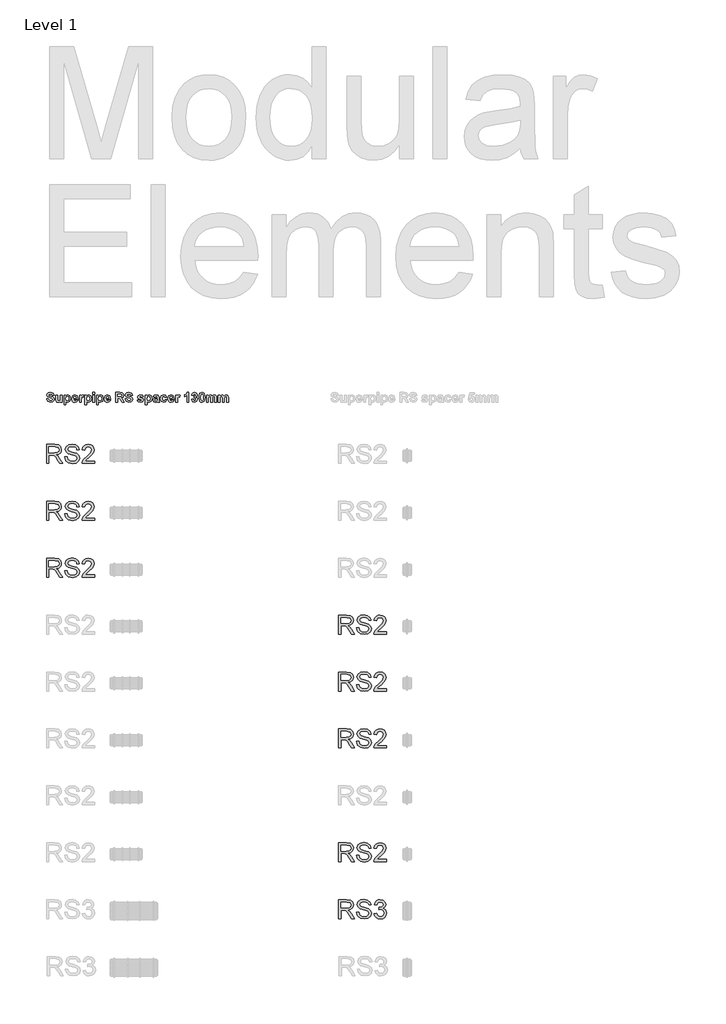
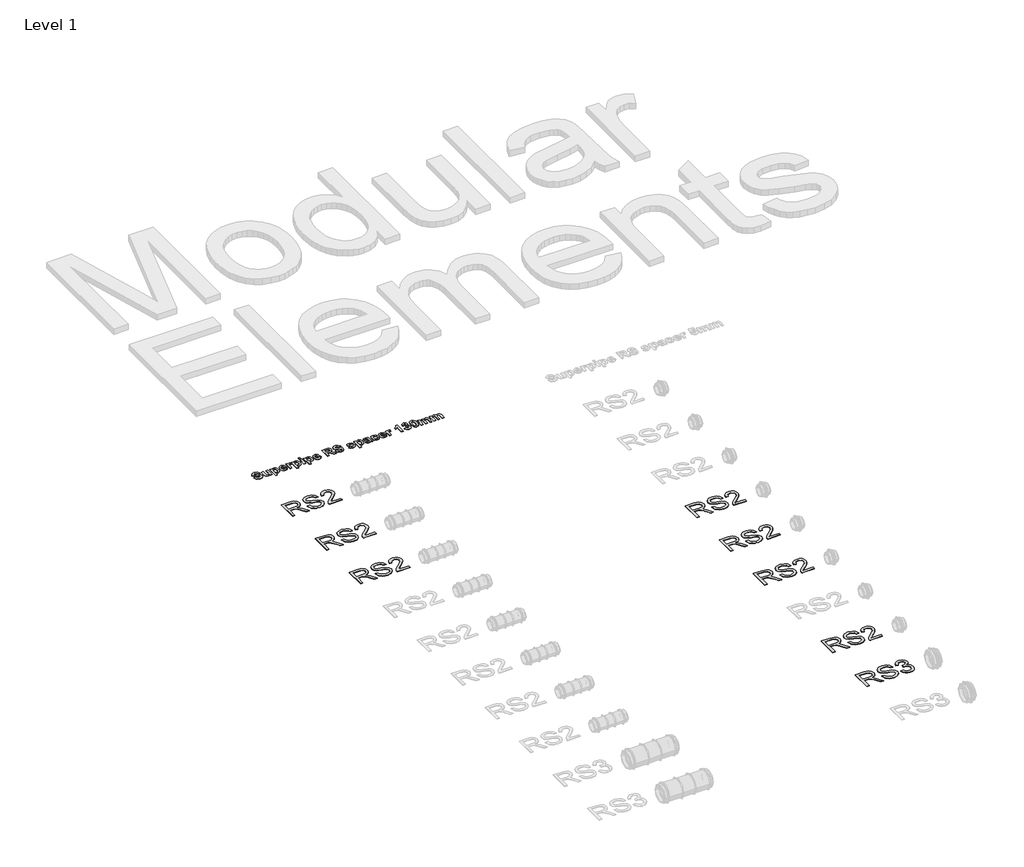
# One storey, part 51 of 58: 9 proxies.
"""IFC4 building model written with IfcOpenShell, lengths in millimetres."""

from ifc_helpers import new_model, si_unit, frame, origin, place, context, project, spatial, polyline, outline, extrude, element, save

model = new_model("IFC4")

# Units and contexts
model_context = context("Model", 3, world=origin())
ifc_project = project(units=[si_unit("LENGTHUNIT", "METRE", prefix="MILLI")], contexts=[model_context])

# Site, building, storey
site = spatial("IfcSite", under=ifc_project)
building = spatial("IfcBuilding", under=site)
storey = spatial("IfcBuildingStorey", under=building, Name="Level 1", Elevation=27.3876384)

# Proxies
placement = place(None, origin())
element("IfcBuildingElementProxy", 1, Name="100mm Arial", ObjectType="100mm Arial", at=placement, inside=storey, context=model_context, shape_type="SweptSolid", body=[
    extrude(outline(polyline([(40829.1903668, 18606.196048), (40829.1903668, 18706.6523581), (40872.4778149, 18706.6523581), (40892.5764346, 18703.9422941), (40903.5638435, 18694.3528367), (40907.6718591, 18679.1593103), (40905.9704049, 18669.2632847), (40900.8660422, 18661.0595162), (40892.2054869, 18655.0446456), (40879.8354548, 18651.7153135), (40886.9723656, 18646.3442364), (40897.1504341, 18633.4193156), (40913.9013276, 18606.196048), (40899.3086751, 18606.196048), (40886.2366016, 18627.0181689), (40876.794297, 18640.801481), (40870.1601584, 18647.3129923), (40864.1882073, 18649.7042253), (40856.9041438, 18650.1456837), (40841.7474056, 18650.1456837), (40841.7474056, 18606.196048), (40829.1903668, 18606.196048)]), holes=[polyline([(40841.7474056, 18662.7027224), (40869.85359, 18662.7027224), (40884.1887251, 18664.4808187), (40892.3311799, 18670.1707269), (40895.1148204, 18678.6933265), (40889.8050569, 18689.7543118), (40873.0173752, 18694.0953193), (40841.7474056, 18694.0953193), (40841.7474056, 18662.7027224)])]), frame((0.0, 0.0, 27.3876384), z_axis=(0.0, 0.0, 1.0), x_axis=(1.0, 0.0, 0.0)), (0.0, 0.0, 1.0), 2.0),
    extrude(outline(polyline([(40924.9377875, 18640.7279046), (40937.4948262, 18640.7279046), (40941.5415282, 18628.1586031), (40951.4252911, 18620.212352), (40966.4839274, 18617.1834569), (40979.6050519, 18619.476588), (40988.0786006, 18625.7796328), (40990.862241, 18634.2041305), (40988.7775763, 18642.040017), (40980.2427141, 18647.742188), (40961.9589789, 18652.5369166), (40942.2772922, 18658.7295969), (40931.5964516, 18668.0737996), (40928.0770471, 18680.5572619), (40932.4303174, 18694.7697697), (40945.1467717, 18704.8006854), (40963.7616007, 18708.221988), (40983.6272284, 18704.6412699), (40996.8709802, 18694.1198448), (41001.8496499, 18678.3990209), (40989.2926111, 18678.3990209), (40986.9872173, 18685.8915509), (40982.1802259, 18691.2994162), (40964.25211, 18695.6649492), (40946.2749432, 18691.3484671), (40940.6340859, 18680.9251439), (40944.6317369, 18672.2186034), (40965.1350268, 18665.20432), (40987.3550993, 18658.9012751), (40999.5074679, 18648.7232066), (41003.4192798, 18634.5229616), (40998.9188567, 18619.5011135), (40985.9694105, 18608.53823), (40966.9744368, 18604.6264181), (40944.5458978, 18608.8447983), (40930.3579155, 18621.5489899), (40924.9377875, 18640.7279046)])), frame((0.0, 0.0, 27.3876384), z_axis=(0.0, 0.0, 1.0), x_axis=(1.0, 0.0, 0.0)), (0.0, 0.0, 1.0), 2.0),
    extrude(outline(polyline([(41081.9007721, 18618.7530867), (41081.9007721, 18606.196048), (41015.9763185, 18606.196048), (41017.3252192, 18614.8535376), (41024.9526392, 18628.1831285), (41040.6734631, 18642.7389928), (41062.3539754, 18663.6592156), (41067.7741034, 18677.8839861), (41062.6605437, 18689.3986925), (41049.3064273, 18694.0953193), (41035.3882251, 18689.5090571), (41030.1029871, 18676.829391), (41017.5459484, 18678.3990209), (41020.5901719, 18690.5452581), (41027.1721939, 18699.4173455), (41036.9486579, 18704.843605), (41049.5762074, 18706.6523581), (41062.2957274, 18704.6412699), (41072.0537973, 18698.6080052), (41078.261806, 18689.5948963), (41080.3311422, 18678.6442756), (41078.0993248, 18666.7371616), (41070.6803712, 18654.4253775), (41052.6909416, 18637.2207629), (41038.245442, 18625.1419707), (41032.5800592, 18618.7530867), (41081.9007721, 18618.7530867)])), frame((0.0, 0.0, 27.3876384), z_axis=(0.0, 0.0, 1.0), x_axis=(1.0, 0.0, 0.0)), (0.0, 0.0, 1.0), 2.0),
])
element("IfcBuildingElementProxy", 2, Name="100mm Arial", ObjectType="100mm Arial", at=placement, inside=storey, context=model_context, shape_type="SweptSolid", body=[
    extrude(outline(polyline([(40829.1903668, 18306.196048), (40829.1903668, 18406.6523581), (40872.4778149, 18406.6523581), (40892.5764346, 18403.9422941), (40903.5638435, 18394.3528367), (40907.6718591, 18379.1593103), (40905.9704049, 18369.2632847), (40900.8660422, 18361.0595162), (40892.2054869, 18355.0446456), (40879.8354548, 18351.7153135), (40886.9723656, 18346.3442364), (40897.1504341, 18333.4193156), (40913.9013276, 18306.196048), (40899.3086751, 18306.196048), (40886.2366016, 18327.0181689), (40876.794297, 18340.801481), (40870.1601584, 18347.3129923), (40864.1882073, 18349.7042253), (40856.9041438, 18350.1456837), (40841.7474056, 18350.1456837), (40841.7474056, 18306.196048), (40829.1903668, 18306.196048)]), holes=[polyline([(40841.7474056, 18362.7027224), (40869.85359, 18362.7027224), (40884.1887251, 18364.4808187), (40892.3311799, 18370.1707269), (40895.1148204, 18378.6933265), (40889.8050569, 18389.7543118), (40873.0173752, 18394.0953193), (40841.7474056, 18394.0953193), (40841.7474056, 18362.7027224)])]), frame((0.0, 0.0, 27.3876384), z_axis=(0.0, 0.0, 1.0), x_axis=(1.0, 0.0, 0.0)), (0.0, 0.0, 1.0), 2.0),
    extrude(outline(polyline([(40924.9377875, 18340.7279046), (40937.4948262, 18340.7279046), (40941.5415282, 18328.1586031), (40951.4252911, 18320.212352), (40966.4839274, 18317.1834569), (40979.6050519, 18319.476588), (40988.0786006, 18325.7796328), (40990.862241, 18334.2041305), (40988.7775763, 18342.040017), (40980.2427141, 18347.742188), (40961.9589789, 18352.5369166), (40942.2772922, 18358.7295969), (40931.5964516, 18368.0737996), (40928.0770471, 18380.5572619), (40932.4303174, 18394.7697697), (40945.1467717, 18404.8006854), (40963.7616007, 18408.221988), (40983.6272284, 18404.6412699), (40996.8709802, 18394.1198448), (41001.8496499, 18378.3990209), (40989.2926111, 18378.3990209), (40986.9872173, 18385.8915509), (40982.1802259, 18391.2994162), (40964.25211, 18395.6649492), (40946.2749432, 18391.3484671), (40940.6340859, 18380.9251439), (40944.6317369, 18372.2186034), (40965.1350268, 18365.20432), (40987.3550993, 18358.9012751), (40999.5074679, 18348.7232066), (41003.4192798, 18334.5229616), (40998.9188567, 18319.5011135), (40985.9694105, 18308.53823), (40966.9744368, 18304.6264181), (40944.5458978, 18308.8447983), (40930.3579155, 18321.5489899), (40924.9377875, 18340.7279046)])), frame((0.0, 0.0, 27.3876384), z_axis=(0.0, 0.0, 1.0), x_axis=(1.0, 0.0, 0.0)), (0.0, 0.0, 1.0), 2.0),
    extrude(outline(polyline([(41081.9007721, 18318.7530867), (41081.9007721, 18306.196048), (41015.9763185, 18306.196048), (41017.3252192, 18314.8535376), (41024.9526392, 18328.1831285), (41040.6734631, 18342.7389928), (41062.3539754, 18363.6592156), (41067.7741034, 18377.8839861), (41062.6605437, 18389.3986925), (41049.3064273, 18394.0953193), (41035.3882251, 18389.5090571), (41030.1029871, 18376.829391), (41017.5459484, 18378.3990209), (41020.5901719, 18390.5452581), (41027.1721939, 18399.4173455), (41036.9486579, 18404.843605), (41049.5762074, 18406.6523581), (41062.2957274, 18404.6412699), (41072.0537973, 18398.6080052), (41078.261806, 18389.5948963), (41080.3311422, 18378.6442756), (41078.0993248, 18366.7371616), (41070.6803712, 18354.4253775), (41052.6909416, 18337.2207629), (41038.245442, 18325.1419707), (41032.5800592, 18318.7530867), (41081.9007721, 18318.7530867)])), frame((0.0, 0.0, 27.3876384), z_axis=(0.0, 0.0, 1.0), x_axis=(1.0, 0.0, 0.0)), (0.0, 0.0, 1.0), 2.0),
])
element("IfcBuildingElementProxy", 3, Name="100mm Arial", ObjectType="100mm Arial", at=placement, inside=storey, context=model_context, shape_type="SweptSolid", body=[
    extrude(outline(polyline([(40829.1903668, 18006.196048), (40829.1903668, 18106.6523581), (40872.4778149, 18106.6523581), (40892.5764346, 18103.9422941), (40903.5638435, 18094.3528367), (40907.6718591, 18079.1593103), (40905.9704049, 18069.2632847), (40900.8660422, 18061.0595162), (40892.2054869, 18055.0446456), (40879.8354548, 18051.7153135), (40886.9723656, 18046.3442364), (40897.1504341, 18033.4193156), (40913.9013276, 18006.196048), (40899.3086751, 18006.196048), (40886.2366016, 18027.0181689), (40876.794297, 18040.801481), (40870.1601584, 18047.3129923), (40864.1882073, 18049.7042253), (40856.9041438, 18050.1456837), (40841.7474056, 18050.1456837), (40841.7474056, 18006.196048), (40829.1903668, 18006.196048)]), holes=[polyline([(40841.7474056, 18062.7027224), (40869.85359, 18062.7027224), (40884.1887251, 18064.4808187), (40892.3311799, 18070.1707269), (40895.1148204, 18078.6933265), (40889.8050569, 18089.7543118), (40873.0173752, 18094.0953193), (40841.7474056, 18094.0953193), (40841.7474056, 18062.7027224)])]), frame((0.0, 0.0, 27.3876384), z_axis=(0.0, 0.0, 1.0), x_axis=(1.0, 0.0, 0.0)), (0.0, 0.0, 1.0), 2.0),
    extrude(outline(polyline([(40924.9377875, 18040.7279046), (40937.4948262, 18040.7279046), (40941.5415282, 18028.1586031), (40951.4252911, 18020.212352), (40966.4839274, 18017.1834569), (40979.6050519, 18019.476588), (40988.0786006, 18025.7796328), (40990.862241, 18034.2041305), (40988.7775763, 18042.040017), (40980.2427141, 18047.742188), (40961.9589789, 18052.5369166), (40942.2772922, 18058.7295969), (40931.5964516, 18068.0737996), (40928.0770471, 18080.5572619), (40932.4303174, 18094.7697697), (40945.1467717, 18104.8006854), (40963.7616007, 18108.221988), (40983.6272284, 18104.6412699), (40996.8709802, 18094.1198448), (41001.8496499, 18078.3990209), (40989.2926111, 18078.3990209), (40986.9872173, 18085.8915509), (40982.1802259, 18091.2994162), (40964.25211, 18095.6649492), (40946.2749432, 18091.3484671), (40940.6340859, 18080.9251439), (40944.6317369, 18072.2186034), (40965.1350268, 18065.20432), (40987.3550993, 18058.9012751), (40999.5074679, 18048.7232066), (41003.4192798, 18034.5229616), (40998.9188567, 18019.5011135), (40985.9694105, 18008.53823), (40966.9744368, 18004.6264181), (40944.5458978, 18008.8447983), (40930.3579155, 18021.5489899), (40924.9377875, 18040.7279046)])), frame((0.0, 0.0, 27.3876384), z_axis=(0.0, 0.0, 1.0), x_axis=(1.0, 0.0, 0.0)), (0.0, 0.0, 1.0), 2.0),
    extrude(outline(polyline([(41081.9007721, 18018.7530867), (41081.9007721, 18006.196048), (41015.9763185, 18006.196048), (41017.3252192, 18014.8535376), (41024.9526392, 18028.1831285), (41040.6734631, 18042.7389928), (41062.3539754, 18063.6592156), (41067.7741034, 18077.8839861), (41062.6605437, 18089.3986925), (41049.3064273, 18094.0953193), (41035.3882251, 18089.5090571), (41030.1029871, 18076.829391), (41017.5459484, 18078.3990209), (41020.5901719, 18090.5452581), (41027.1721939, 18099.4173455), (41036.9486579, 18104.843605), (41049.5762074, 18106.6523581), (41062.2957274, 18104.6412699), (41072.0537973, 18098.6080052), (41078.261806, 18089.5948963), (41080.3311422, 18078.6442756), (41078.0993248, 18066.7371616), (41070.6803712, 18054.4253775), (41052.6909416, 18037.2207629), (41038.245442, 18025.1419707), (41032.5800592, 18018.7530867), (41081.9007721, 18018.7530867)])), frame((0.0, 0.0, 27.3876384), z_axis=(0.0, 0.0, 1.0), x_axis=(1.0, 0.0, 0.0)), (0.0, 0.0, 1.0), 2.0),
])
element("IfcBuildingElementProxy", 4, Name="100mm Arial", ObjectType="100mm Arial", at=placement, inside=storey, context=model_context, shape_type="SweptSolid", body=[
    extrude(outline(polyline([(42369.1903668, 17706.196048), (42369.1903668, 17806.6523581), (42412.4778149, 17806.6523581), (42432.5764346, 17803.9422941), (42443.5638435, 17794.3528367), (42447.6718591, 17779.1593103), (42445.9704049, 17769.2632847), (42440.8660422, 17761.0595162), (42432.2054869, 17755.0446456), (42419.8354548, 17751.7153135), (42426.9723656, 17746.3442364), (42437.1504341, 17733.4193156), (42453.9013276, 17706.196048), (42439.3086751, 17706.196048), (42426.2366016, 17727.0181689), (42416.794297, 17740.801481), (42410.1601584, 17747.3129923), (42404.1882073, 17749.7042253), (42396.9041438, 17750.1456837), (42381.7474056, 17750.1456837), (42381.7474056, 17706.196048), (42369.1903668, 17706.196048)]), holes=[polyline([(42381.7474056, 17762.7027224), (42409.85359, 17762.7027224), (42424.1887251, 17764.4808187), (42432.3311799, 17770.1707269), (42435.1148204, 17778.6933265), (42429.8050569, 17789.7543118), (42413.0173752, 17794.0953193), (42381.7474056, 17794.0953193), (42381.7474056, 17762.7027224)])]), frame((0.0, 0.0, 27.3876384), z_axis=(0.0, 0.0, 1.0), x_axis=(1.0, 0.0, 0.0)), (0.0, 0.0, 1.0), 2.0),
    extrude(outline(polyline([(42464.9377875, 17740.7279046), (42477.4948262, 17740.7279046), (42481.5415282, 17728.1586031), (42491.4252911, 17720.212352), (42506.4839274, 17717.1834569), (42519.6050519, 17719.476588), (42528.0786006, 17725.7796328), (42530.862241, 17734.2041305), (42528.7775763, 17742.040017), (42520.2427141, 17747.742188), (42501.9589789, 17752.5369166), (42482.2772922, 17758.7295969), (42471.5964516, 17768.0737996), (42468.0770471, 17780.5572619), (42472.4303174, 17794.7697697), (42485.1467717, 17804.8006854), (42503.7616007, 17808.221988), (42523.6272284, 17804.6412699), (42536.8709802, 17794.1198448), (42541.8496499, 17778.3990209), (42529.2926111, 17778.3990209), (42526.9872173, 17785.8915509), (42522.1802259, 17791.2994162), (42504.25211, 17795.6649492), (42486.2749432, 17791.3484671), (42480.6340859, 17780.9251439), (42484.6317369, 17772.2186034), (42505.1350268, 17765.20432), (42527.3550993, 17758.9012751), (42539.5074679, 17748.7232066), (42543.4192798, 17734.5229616), (42538.9188567, 17719.5011135), (42525.9694105, 17708.53823), (42506.9744368, 17704.6264181), (42484.5458978, 17708.8447983), (42470.3579155, 17721.5489899), (42464.9377875, 17740.7279046)])), frame((0.0, 0.0, 27.3876384), z_axis=(0.0, 0.0, 1.0), x_axis=(1.0, 0.0, 0.0)), (0.0, 0.0, 1.0), 2.0),
    extrude(outline(polyline([(42621.9007721, 17718.7530867), (42621.9007721, 17706.196048), (42555.9763185, 17706.196048), (42557.3252192, 17714.8535376), (42564.9526392, 17728.1831285), (42580.6734631, 17742.7389928), (42602.3539754, 17763.6592156), (42607.7741034, 17777.8839861), (42602.6605437, 17789.3986925), (42589.3064273, 17794.0953193), (42575.3882251, 17789.5090571), (42570.1029871, 17776.829391), (42557.5459484, 17778.3990209), (42560.5901719, 17790.5452581), (42567.1721939, 17799.4173455), (42576.9486579, 17804.843605), (42589.5762074, 17806.6523581), (42602.2957274, 17804.6412699), (42612.0537973, 17798.6080052), (42618.261806, 17789.5948963), (42620.3311422, 17778.6442756), (42618.0993248, 17766.7371616), (42610.6803712, 17754.4253775), (42592.6909416, 17737.2207629), (42578.245442, 17725.1419707), (42572.5800592, 17718.7530867), (42621.9007721, 17718.7530867)])), frame((0.0, 0.0, 27.3876384), z_axis=(0.0, 0.0, 1.0), x_axis=(1.0, 0.0, 0.0)), (0.0, 0.0, 1.0), 2.0),
])
element("IfcBuildingElementProxy", 5, Name="100mm Arial", ObjectType="100mm Arial", at=placement, inside=storey, context=model_context, shape_type="SweptSolid", body=[
    extrude(outline(polyline([(42369.1903668, 17406.196048), (42369.1903668, 17506.6523581), (42412.4778149, 17506.6523581), (42432.5764346, 17503.9422941), (42443.5638435, 17494.3528367), (42447.6718591, 17479.1593103), (42445.9704049, 17469.2632847), (42440.8660422, 17461.0595162), (42432.2054869, 17455.0446456), (42419.8354548, 17451.7153135), (42426.9723656, 17446.3442364), (42437.1504341, 17433.4193156), (42453.9013276, 17406.196048), (42439.3086751, 17406.196048), (42426.2366016, 17427.0181689), (42416.794297, 17440.801481), (42410.1601584, 17447.3129923), (42404.1882073, 17449.7042253), (42396.9041438, 17450.1456837), (42381.7474056, 17450.1456837), (42381.7474056, 17406.196048), (42369.1903668, 17406.196048)]), holes=[polyline([(42381.7474056, 17462.7027224), (42409.85359, 17462.7027224), (42424.1887251, 17464.4808187), (42432.3311799, 17470.1707269), (42435.1148204, 17478.6933265), (42429.8050569, 17489.7543118), (42413.0173752, 17494.0953193), (42381.7474056, 17494.0953193), (42381.7474056, 17462.7027224)])]), frame((0.0, 0.0, 27.3876384), z_axis=(0.0, 0.0, 1.0), x_axis=(1.0, 0.0, 0.0)), (0.0, 0.0, 1.0), 2.0),
    extrude(outline(polyline([(42464.9377875, 17440.7279046), (42477.4948262, 17440.7279046), (42481.5415282, 17428.1586031), (42491.4252911, 17420.212352), (42506.4839274, 17417.1834569), (42519.6050519, 17419.476588), (42528.0786006, 17425.7796328), (42530.862241, 17434.2041305), (42528.7775763, 17442.040017), (42520.2427141, 17447.742188), (42501.9589789, 17452.5369166), (42482.2772922, 17458.7295969), (42471.5964516, 17468.0737996), (42468.0770471, 17480.5572619), (42472.4303174, 17494.7697697), (42485.1467717, 17504.8006854), (42503.7616007, 17508.221988), (42523.6272284, 17504.6412699), (42536.8709802, 17494.1198448), (42541.8496499, 17478.3990209), (42529.2926111, 17478.3990209), (42526.9872173, 17485.8915509), (42522.1802259, 17491.2994162), (42504.25211, 17495.6649492), (42486.2749432, 17491.3484671), (42480.6340859, 17480.9251439), (42484.6317369, 17472.2186034), (42505.1350268, 17465.20432), (42527.3550993, 17458.9012751), (42539.5074679, 17448.7232066), (42543.4192798, 17434.5229616), (42538.9188567, 17419.5011135), (42525.9694105, 17408.53823), (42506.9744368, 17404.6264181), (42484.5458978, 17408.8447983), (42470.3579155, 17421.5489899), (42464.9377875, 17440.7279046)])), frame((0.0, 0.0, 27.3876384), z_axis=(0.0, 0.0, 1.0), x_axis=(1.0, 0.0, 0.0)), (0.0, 0.0, 1.0), 2.0),
    extrude(outline(polyline([(42621.9007721, 17418.7530867), (42621.9007721, 17406.196048), (42555.9763185, 17406.196048), (42557.3252192, 17414.8535376), (42564.9526392, 17428.1831285), (42580.6734631, 17442.7389928), (42602.3539754, 17463.6592156), (42607.7741034, 17477.8839861), (42602.6605437, 17489.3986925), (42589.3064273, 17494.0953193), (42575.3882251, 17489.5090571), (42570.1029871, 17476.829391), (42557.5459484, 17478.3990209), (42560.5901719, 17490.5452581), (42567.1721939, 17499.4173455), (42576.9486579, 17504.843605), (42589.5762074, 17506.6523581), (42602.2957274, 17504.6412699), (42612.0537973, 17498.6080052), (42618.261806, 17489.5948963), (42620.3311422, 17478.6442756), (42618.0993248, 17466.7371616), (42610.6803712, 17454.4253775), (42592.6909416, 17437.2207629), (42578.245442, 17425.1419707), (42572.5800592, 17418.7530867), (42621.9007721, 17418.7530867)])), frame((0.0, 0.0, 27.3876384), z_axis=(0.0, 0.0, 1.0), x_axis=(1.0, 0.0, 0.0)), (0.0, 0.0, 1.0), 2.0),
])
element("IfcBuildingElementProxy", 6, Name="100mm Arial", ObjectType="100mm Arial", at=placement, inside=storey, context=model_context, shape_type="SweptSolid", body=[
    extrude(outline(polyline([(42369.1903668, 17106.196048), (42369.1903668, 17206.6523581), (42412.4778149, 17206.6523581), (42432.5764346, 17203.9422941), (42443.5638435, 17194.3528367), (42447.6718591, 17179.1593103), (42445.9704049, 17169.2632847), (42440.8660422, 17161.0595162), (42432.2054869, 17155.0446456), (42419.8354548, 17151.7153135), (42426.9723656, 17146.3442364), (42437.1504341, 17133.4193156), (42453.9013276, 17106.196048), (42439.3086751, 17106.196048), (42426.2366016, 17127.0181689), (42416.794297, 17140.801481), (42410.1601584, 17147.3129923), (42404.1882073, 17149.7042253), (42396.9041438, 17150.1456837), (42381.7474056, 17150.1456837), (42381.7474056, 17106.196048), (42369.1903668, 17106.196048)]), holes=[polyline([(42381.7474056, 17162.7027224), (42409.85359, 17162.7027224), (42424.1887251, 17164.4808187), (42432.3311799, 17170.1707269), (42435.1148204, 17178.6933265), (42429.8050569, 17189.7543118), (42413.0173752, 17194.0953193), (42381.7474056, 17194.0953193), (42381.7474056, 17162.7027224)])]), frame((0.0, 0.0, 27.3876384), z_axis=(0.0, 0.0, 1.0), x_axis=(1.0, 0.0, 0.0)), (0.0, 0.0, 1.0), 2.0),
    extrude(outline(polyline([(42464.9377875, 17140.7279046), (42477.4948262, 17140.7279046), (42481.5415282, 17128.1586031), (42491.4252911, 17120.212352), (42506.4839274, 17117.1834569), (42519.6050519, 17119.476588), (42528.0786006, 17125.7796328), (42530.862241, 17134.2041305), (42528.7775763, 17142.040017), (42520.2427141, 17147.742188), (42501.9589789, 17152.5369166), (42482.2772922, 17158.7295969), (42471.5964516, 17168.0737996), (42468.0770471, 17180.5572619), (42472.4303174, 17194.7697697), (42485.1467717, 17204.8006854), (42503.7616007, 17208.221988), (42523.6272284, 17204.6412699), (42536.8709802, 17194.1198448), (42541.8496499, 17178.3990209), (42529.2926111, 17178.3990209), (42526.9872173, 17185.8915509), (42522.1802259, 17191.2994162), (42504.25211, 17195.6649492), (42486.2749432, 17191.3484671), (42480.6340859, 17180.9251439), (42484.6317369, 17172.2186034), (42505.1350268, 17165.20432), (42527.3550993, 17158.9012751), (42539.5074679, 17148.7232066), (42543.4192798, 17134.5229616), (42538.9188567, 17119.5011135), (42525.9694105, 17108.53823), (42506.9744368, 17104.6264181), (42484.5458978, 17108.8447983), (42470.3579155, 17121.5489899), (42464.9377875, 17140.7279046)])), frame((0.0, 0.0, 27.3876384), z_axis=(0.0, 0.0, 1.0), x_axis=(1.0, 0.0, 0.0)), (0.0, 0.0, 1.0), 2.0),
    extrude(outline(polyline([(42621.9007721, 17118.7530867), (42621.9007721, 17106.196048), (42555.9763185, 17106.196048), (42557.3252192, 17114.8535376), (42564.9526392, 17128.1831285), (42580.6734631, 17142.7389928), (42602.3539754, 17163.6592156), (42607.7741034, 17177.8839861), (42602.6605437, 17189.3986925), (42589.3064273, 17194.0953193), (42575.3882251, 17189.5090571), (42570.1029871, 17176.829391), (42557.5459484, 17178.3990209), (42560.5901719, 17190.5452581), (42567.1721939, 17199.4173455), (42576.9486579, 17204.843605), (42589.5762074, 17206.6523581), (42602.2957274, 17204.6412699), (42612.0537973, 17198.6080052), (42618.261806, 17189.5948963), (42620.3311422, 17178.6442756), (42618.0993248, 17166.7371616), (42610.6803712, 17154.4253775), (42592.6909416, 17137.2207629), (42578.245442, 17125.1419707), (42572.5800592, 17118.7530867), (42621.9007721, 17118.7530867)])), frame((0.0, 0.0, 27.3876384), z_axis=(0.0, 0.0, 1.0), x_axis=(1.0, 0.0, 0.0)), (0.0, 0.0, 1.0), 2.0),
])
element("IfcBuildingElementProxy", 7, Name="100mm Arial", ObjectType="100mm Arial", at=placement, inside=storey, context=model_context, shape_type="SweptSolid", body=[
    extrude(outline(polyline([(42369.1903668, 16506.196048), (42369.1903668, 16606.6523581), (42412.4778149, 16606.6523581), (42432.5764346, 16603.9422941), (42443.5638435, 16594.3528367), (42447.6718591, 16579.1593103), (42445.9704049, 16569.2632847), (42440.8660422, 16561.0595162), (42432.2054869, 16555.0446456), (42419.8354548, 16551.7153135), (42426.9723656, 16546.3442364), (42437.1504341, 16533.4193156), (42453.9013276, 16506.196048), (42439.3086751, 16506.196048), (42426.2366016, 16527.0181689), (42416.794297, 16540.801481), (42410.1601584, 16547.3129923), (42404.1882073, 16549.7042253), (42396.9041438, 16550.1456837), (42381.7474056, 16550.1456837), (42381.7474056, 16506.196048), (42369.1903668, 16506.196048)]), holes=[polyline([(42381.7474056, 16562.7027224), (42409.85359, 16562.7027224), (42424.1887251, 16564.4808187), (42432.3311799, 16570.1707269), (42435.1148204, 16578.6933265), (42429.8050569, 16589.7543118), (42413.0173752, 16594.0953193), (42381.7474056, 16594.0953193), (42381.7474056, 16562.7027224)])]), frame((0.0, 0.0, 27.3876384), z_axis=(0.0, 0.0, 1.0), x_axis=(1.0, 0.0, 0.0)), (0.0, 0.0, 1.0), 2.0),
    extrude(outline(polyline([(42464.9377875, 16540.7279046), (42477.4948262, 16540.7279046), (42481.5415282, 16528.1586031), (42491.4252911, 16520.212352), (42506.4839274, 16517.1834569), (42519.6050519, 16519.476588), (42528.0786006, 16525.7796328), (42530.862241, 16534.2041305), (42528.7775763, 16542.040017), (42520.2427141, 16547.742188), (42501.9589789, 16552.5369166), (42482.2772922, 16558.7295969), (42471.5964516, 16568.0737996), (42468.0770471, 16580.5572619), (42472.4303174, 16594.7697697), (42485.1467717, 16604.8006854), (42503.7616007, 16608.221988), (42523.6272284, 16604.6412699), (42536.8709802, 16594.1198448), (42541.8496499, 16578.3990209), (42529.2926111, 16578.3990209), (42526.9872173, 16585.8915509), (42522.1802259, 16591.2994162), (42504.25211, 16595.6649492), (42486.2749432, 16591.3484671), (42480.6340859, 16580.9251439), (42484.6317369, 16572.2186034), (42505.1350268, 16565.20432), (42527.3550993, 16558.9012751), (42539.5074679, 16548.7232066), (42543.4192798, 16534.5229616), (42538.9188567, 16519.5011135), (42525.9694105, 16508.53823), (42506.9744368, 16504.6264181), (42484.5458978, 16508.8447983), (42470.3579155, 16521.5489899), (42464.9377875, 16540.7279046)])), frame((0.0, 0.0, 27.3876384), z_axis=(0.0, 0.0, 1.0), x_axis=(1.0, 0.0, 0.0)), (0.0, 0.0, 1.0), 2.0),
    extrude(outline(polyline([(42621.9007721, 16518.7530867), (42621.9007721, 16506.196048), (42555.9763185, 16506.196048), (42557.3252192, 16514.8535376), (42564.9526392, 16528.1831285), (42580.6734631, 16542.7389928), (42602.3539754, 16563.6592156), (42607.7741034, 16577.8839861), (42602.6605437, 16589.3986925), (42589.3064273, 16594.0953193), (42575.3882251, 16589.5090571), (42570.1029871, 16576.829391), (42557.5459484, 16578.3990209), (42560.5901719, 16590.5452581), (42567.1721939, 16599.4173455), (42576.9486579, 16604.843605), (42589.5762074, 16606.6523581), (42602.2957274, 16604.6412699), (42612.0537973, 16598.6080052), (42618.261806, 16589.5948963), (42620.3311422, 16578.6442756), (42618.0993248, 16566.7371616), (42610.6803712, 16554.4253775), (42592.6909416, 16537.2207629), (42578.245442, 16525.1419707), (42572.5800592, 16518.7530867), (42621.9007721, 16518.7530867)])), frame((0.0, 0.0, 27.3876384), z_axis=(0.0, 0.0, 1.0), x_axis=(1.0, 0.0, 0.0)), (0.0, 0.0, 1.0), 2.0),
])
element("IfcBuildingElementProxy", 8, Name="100mm Arial", ObjectType="100mm Arial", at=placement, inside=storey, context=model_context, shape_type="SweptSolid", body=[
    extrude(outline(polyline([(42369.1903668, 16206.196048), (42369.1903668, 16306.6523581), (42412.4778149, 16306.6523581), (42432.5764346, 16303.9422941), (42443.5638435, 16294.3528367), (42447.6718591, 16279.1593103), (42445.9704049, 16269.2632847), (42440.8660422, 16261.0595162), (42432.2054869, 16255.0446456), (42419.8354548, 16251.7153135), (42426.9723656, 16246.3442364), (42437.1504341, 16233.4193156), (42453.9013276, 16206.196048), (42439.3086751, 16206.196048), (42426.2366016, 16227.0181689), (42416.794297, 16240.801481), (42410.1601584, 16247.3129923), (42404.1882073, 16249.7042253), (42396.9041438, 16250.1456837), (42381.7474056, 16250.1456837), (42381.7474056, 16206.196048), (42369.1903668, 16206.196048)]), holes=[polyline([(42381.7474056, 16262.7027224), (42409.85359, 16262.7027224), (42424.1887251, 16264.4808187), (42432.3311799, 16270.1707269), (42435.1148204, 16278.6933265), (42429.8050569, 16289.7543118), (42413.0173752, 16294.0953193), (42381.7474056, 16294.0953193), (42381.7474056, 16262.7027224)])]), frame((0.0, 0.0, 27.3876384), z_axis=(0.0, 0.0, 1.0), x_axis=(1.0, 0.0, 0.0)), (0.0, 0.0, 1.0), 2.0),
    extrude(outline(polyline([(42464.9377875, 16240.7279046), (42477.4948262, 16240.7279046), (42481.5415282, 16228.1586031), (42491.4252911, 16220.212352), (42506.4839274, 16217.1834569), (42519.6050519, 16219.476588), (42528.0786006, 16225.7796328), (42530.862241, 16234.2041305), (42528.7775763, 16242.040017), (42520.2427141, 16247.742188), (42501.9589789, 16252.5369166), (42482.2772922, 16258.7295969), (42471.5964516, 16268.0737996), (42468.0770471, 16280.5572619), (42472.4303174, 16294.7697697), (42485.1467717, 16304.8006854), (42503.7616007, 16308.221988), (42523.6272284, 16304.6412699), (42536.8709802, 16294.1198448), (42541.8496499, 16278.3990209), (42529.2926111, 16278.3990209), (42526.9872173, 16285.8915509), (42522.1802259, 16291.2994162), (42504.25211, 16295.6649492), (42486.2749432, 16291.3484671), (42480.6340859, 16280.9251439), (42484.6317369, 16272.2186034), (42505.1350268, 16265.20432), (42527.3550993, 16258.9012751), (42539.5074679, 16248.7232066), (42543.4192798, 16234.5229616), (42538.9188567, 16219.5011135), (42525.9694105, 16208.53823), (42506.9744368, 16204.6264181), (42484.5458978, 16208.8447983), (42470.3579155, 16221.5489899), (42464.9377875, 16240.7279046)])), frame((0.0, 0.0, 27.3876384), z_axis=(0.0, 0.0, 1.0), x_axis=(1.0, 0.0, 0.0)), (0.0, 0.0, 1.0), 2.0),
    extrude(outline(polyline([(42557.5459484, 16232.8797554), (42570.1029871, 16234.4493852), (42577.0314314, 16221.2301588), (42589.9931403, 16217.1834569), (42598.601579, 16218.5752771), (42605.2479804, 16222.7507378), (42610.9133631, 16236.5340498), (42605.2970313, 16249.5202843), (42591.0232099, 16254.6583695), (42582.2185675, 16253.2849434), (42583.6165191, 16265.8419821), (42585.6276073, 16265.6948293), (42599.8769033, 16269.3000729), (42604.622581, 16273.8740723), (42606.2044736, 16280.3855837), (42601.6182114, 16290.2080329), (42589.7969366, 16294.0953193), (42577.828509, 16290.1712447), (42571.672617, 16278.3990209), (42559.1155782, 16279.9686507), (42562.8127923, 16291.2442339), (42569.3917486, 16299.6626002), (42578.3925948, 16304.9049186), (42589.3554782, 16306.6523581), (42604.4999537, 16303.2065301), (42615.0949552, 16293.788751), (42618.7615124, 16281.1213477), (42615.2788961, 16269.5453275), (42604.9782003, 16261.2311944), (42618.6634105, 16252.6472812), (42623.4704019, 16236.3133206), (42621.0669062, 16224.0751129), (42613.8564191, 16213.8479935), (42602.9732434, 16206.931812), (42589.551682, 16204.6264181), (42577.4115761, 16206.5945868), (42567.5278132, 16212.4990928), (42560.6545512, 16221.5305958), (42557.5459484, 16232.8797554)])), frame((0.0, 0.0, 27.3876384), z_axis=(0.0, 0.0, 1.0), x_axis=(1.0, 0.0, 0.0)), (0.0, 0.0, 1.0), 2.0),
])
element("IfcBuildingElementProxy", 9, Name="50mm Arial", ObjectType="50mm Arial", at=placement, inside=storey, context=model_context, shape_type="SweptSolid", body=[
    extrude(outline(polyline([(40828.9770616, 18946.5014095), (40838.6938178, 18947.3111392), (40842.4894257, 18939.9476599), (40850.1945097, 18937.594383), (40857.9502018, 18939.6756413), (40860.5565192, 18944.5403454), (40859.4747709, 18947.5831577), (40855.6854891, 18949.7656323), (40847.2592396, 18951.9291288), (40835.3916389, 18956.9013751), (40830.5965209, 18967.1368644), (40832.7979735, 18974.3991274), (40839.1492907, 18979.5485021), (40849.1570435, 18981.3197858), (40863.5740275, 18976.9042286), (40868.653816, 18965.1251922), (40858.9370598, 18965.1251922), (40856.0081157, 18970.7110618), (40849.2709117, 18972.4127593), (40842.0086487, 18970.6035196), (40840.3132771, 18967.4911211), (40841.8568243, 18964.4419828), (40851.3774741, 18961.1208258), (40862.5555393, 18957.5276504), (40868.2236471, 18952.3846017), (40870.2732754, 18944.325261), (40867.8504124, 18936.177356), (40860.9930141, 18930.5345523), (40849.9414691, 18928.6873565), (40835.1385984, 18933.2357599), (40828.9770616, 18946.5014095)])), frame((0.0, 0.0, 27.3876384), z_axis=(0.0, 0.0, 1.0), x_axis=(1.0, 0.0, 0.0)), (0.0, 0.0, 1.0), 2.0),
    extrude(outline(polyline([(40901.852733, 18929.4970861), (40901.852733, 18934.9627615), (40896.7729444, 18930.3637499), (40890.1243046, 18928.6873565), (40883.7350314, 18930.3321199), (40879.6357748, 18934.9564355), (40878.3705722, 18943.1992306), (40878.3705722, 18966.7446515), (40888.0873284, 18966.7446515), (40888.0873284, 18949.5252438), (40888.6123875, 18939.8401176), (40890.5354955, 18937.0187158), (40894.0843889, 18935.9749236), (40898.480968, 18937.3666465), (40901.1378935, 18940.8269757), (40901.852733, 18950.9422707), (40901.852733, 18966.7446515), (40911.5694892, 18966.7446515), (40911.5694892, 18929.4970861), (40901.852733, 18929.4970861)])), frame((0.0, 0.0, 27.3876384), z_axis=(0.0, 0.0, 1.0), x_axis=(1.0, 0.0, 0.0)), (0.0, 0.0, 1.0), 2.0),
    extrude(outline(polyline([(40921.2862454, 18966.7446515), (40931.0030016, 18966.7446515), (40931.0030016, 18961.3801924), (40935.6209912, 18965.8463577), (40942.0861766, 18967.5543812), (40952.5936844, 18962.4745927), (40956.9143514, 18948.3359533), (40952.4545121, 18933.8493832), (40941.6433557, 18928.6873565), (40936.1650283, 18929.889299), (40931.0030016, 18934.0138595), (40931.0030016, 18915.7316815), (40921.2862454, 18915.7316815), (40921.2862454, 18966.7446515)]), holes=[polyline([(40931.0030016, 18948.7661222), (40933.4385166, 18939.0999741), (40939.378643, 18935.9749236), (40944.9645126, 18938.8406076), (40947.1975952, 18948.2473891), (40944.9012525, 18957.3062399), (40939.2015146, 18960.2668141), (40933.3373004, 18957.363174), (40931.0030016, 18948.7661222)])]), frame((0.0, 0.0, 27.3876384), z_axis=(0.0, 0.0, 1.0), x_axis=(1.0, 0.0, 0.0)), (0.0, 0.0, 1.0), 2.0),
    extrude(outline(polyline([(40985.2548903, 18940.8333017), (40994.9716465, 18939.2138423), (40989.1770185, 18931.375912), (40979.2704819, 18928.6873565), (40971.0814579, 18930.2720228), (40965.3406009, 18935.0260216), (40961.7727295, 18947.8425243), (40966.5045873, 18962.3164423), (40978.4734042, 18967.5543812), (40991.2899068, 18962.17727), (40995.7813762, 18945.6916798), (40971.4894857, 18945.6916798), (40973.7795025, 18938.5306329), (40979.2325258, 18935.9749236), (40982.9648735, 18937.126258), (40985.2548903, 18940.8333017)]), holes=[polyline([(40986.06462, 18951.3597876), (40983.9011235, 18957.9957754), (40978.8909211, 18960.2668141), (40973.6782862, 18957.8755811), (40971.653962, 18951.3597876), (40986.06462, 18951.3597876)])]), frame((0.0, 0.0, 27.3876384), z_axis=(0.0, 0.0, 1.0), x_axis=(1.0, 0.0, 0.0)), (0.0, 0.0, 1.0), 2.0),
    extrude(outline(polyline([(41012.7856995, 18929.4970861), (41003.0689433, 18929.4970861), (41003.0689433, 18966.7446515), (41012.7856995, 18966.7446515), (41012.7856995, 18961.5573208), (41016.6698716, 18966.3967208), (41020.5919997, 18967.5543812), (41026.5511041, 18965.504753), (41023.7170502, 18956.2561217), (41019.2129289, 18957.837625), (41015.7905557, 18956.7305727), (41013.5891032, 18952.7388584), (41012.7856995, 18940.6435213), (41012.7856995, 18929.4970861)])), frame((0.0, 0.0, 27.3876384), z_axis=(0.0, 0.0, 1.0), x_axis=(1.0, 0.0, 0.0)), (0.0, 0.0, 1.0), 2.0),
    extrude(outline(polyline([(41030.5997525, 18966.7446515), (41040.3165087, 18966.7446515), (41040.3165087, 18961.3801924), (41044.9344983, 18965.8463577), (41051.3996837, 18967.5543812), (41061.9071916, 18962.4745927), (41066.2278586, 18948.3359533), (41061.7680193, 18933.8493832), (41050.9568628, 18928.6873565), (41045.4785354, 18929.889299), (41040.3165087, 18934.0138595), (41040.3165087, 18915.7316815), (41030.5997525, 18915.7316815), (41030.5997525, 18966.7446515)]), holes=[polyline([(41040.3165087, 18948.7661222), (41042.7520238, 18939.0999741), (41048.6921501, 18935.9749236), (41054.2780197, 18938.8406076), (41056.5111024, 18948.2473891), (41054.2147596, 18957.3062399), (41048.5150217, 18960.2668141), (41042.6508076, 18957.363174), (41040.3165087, 18948.7661222)])]), frame((0.0, 0.0, 27.3876384), z_axis=(0.0, 0.0, 1.0), x_axis=(1.0, 0.0, 0.0)), (0.0, 0.0, 1.0), 2.0),
    extrude(outline(polyline([(41073.5154257, 18929.4970861), (41073.5154257, 18966.7446515), (41083.2321819, 18966.7446515), (41083.2321819, 18929.4970861), (41073.5154257, 18929.4970861)])), frame((0.0, 0.0, 27.3876384), z_axis=(0.0, 0.0, 1.0), x_axis=(1.0, 0.0, 0.0)), (0.0, 0.0, 1.0), 2.0),
    extrude(outline(polyline([(41073.5154257, 18971.6030296), (41073.5154257, 18980.5100561), (41083.2321819, 18980.5100561), (41083.2321819, 18971.6030296), (41073.5154257, 18971.6030296)])), frame((0.0, 0.0, 27.3876384), z_axis=(0.0, 0.0, 1.0), x_axis=(1.0, 0.0, 0.0)), (0.0, 0.0, 1.0), 2.0),
    extrude(outline(polyline([(41092.9489381, 18966.7446515), (41102.6656943, 18966.7446515), (41102.6656943, 18961.3801924), (41107.2836839, 18965.8463577), (41113.7488693, 18967.5543812), (41124.2563771, 18962.4745927), (41128.5770441, 18948.3359533), (41124.1172048, 18933.8493832), (41113.3060484, 18928.6873565), (41107.827721, 18929.889299), (41102.6656943, 18934.0138595), (41102.6656943, 18915.7316815), (41092.9489381, 18915.7316815), (41092.9489381, 18966.7446515)]), holes=[polyline([(41102.6656943, 18948.7661222), (41105.1012093, 18939.0999741), (41111.0413357, 18935.9749236), (41116.6272053, 18938.8406076), (41118.8602879, 18948.2473891), (41116.5639451, 18957.3062399), (41110.8642073, 18960.2668141), (41104.9999931, 18957.363174), (41102.6656943, 18948.7661222)])]), frame((0.0, 0.0, 27.3876384), z_axis=(0.0, 0.0, 1.0), x_axis=(1.0, 0.0, 0.0)), (0.0, 0.0, 1.0), 2.0),
    extrude(outline(polyline([(41156.917583, 18940.8333017), (41166.6343392, 18939.2138423), (41160.8397111, 18931.375912), (41150.9331746, 18928.6873565), (41142.7441505, 18930.2720228), (41137.0032936, 18935.0260216), (41133.4354222, 18947.8425243), (41138.16728, 18962.3164423), (41150.1360969, 18967.5543812), (41162.9525995, 18962.17727), (41167.4440689, 18945.6916798), (41143.1521784, 18945.6916798), (41145.4421951, 18938.5306329), (41150.8952185, 18935.9749236), (41154.6275662, 18937.126258), (41156.917583, 18940.8333017)]), holes=[polyline([(41157.7273127, 18951.3597876), (41155.5638162, 18957.9957754), (41150.5536138, 18960.2668141), (41145.3409789, 18957.8755811), (41143.3166547, 18951.3597876), (41157.7273127, 18951.3597876)])]), frame((0.0, 0.0, 27.3876384), z_axis=(0.0, 0.0, 1.0), x_axis=(1.0, 0.0, 0.0)), (0.0, 0.0, 1.0), 2.0),
    extrude(outline(polyline([(41194.1651484, 18929.4970861), (41194.1651484, 18980.5100561), (41215.622985, 18980.5100561), (41227.3893694, 18979.1309853), (41233.2599096, 18974.2219991), (41235.4613622, 18966.1373543), (41232.2793776, 18956.6103785), (41222.7587278, 18951.8785206), (41227.8574944, 18947.6274398), (41233.2725616, 18939.3909707), (41239.5100106, 18929.4970861), (41228.161143, 18929.4970861), (41220.7723597, 18941.1496024), (41214.9714056, 18948.0639347), (41211.6565747, 18950.0186728), (41206.1086612, 18950.5500579), (41203.8819046, 18950.5500579), (41203.8819046, 18929.4970861), (41194.1651484, 18929.4970861)]), holes=[polyline([(41203.8819046, 18959.4570844), (41211.8906372, 18959.4570844), (41221.6137194, 18960.0454036), (41224.6502057, 18962.0697278), (41225.744606, 18965.6565773), (41224.302275, 18969.5597274), (41220.2283225, 18971.4385533), (41212.3334581, 18971.6030296), (41203.8819046, 18971.6030296), (41203.8819046, 18959.4570844)])]), frame((0.0, 0.0, 27.3876384), z_axis=(0.0, 0.0, 1.0), x_axis=(1.0, 0.0, 0.0)), (0.0, 0.0, 1.0), 2.0),
    extrude(outline(polyline([(41242.7489293, 18946.5014095), (41252.4656855, 18947.3111392), (41256.2612934, 18939.9476599), (41263.9663774, 18937.594383), (41271.7220695, 18939.6756413), (41274.328387, 18944.5403454), (41273.2466387, 18947.5831577), (41269.4573568, 18949.7656323), (41261.0311073, 18951.9291288), (41249.1635067, 18956.9013751), (41244.3683887, 18967.1368644), (41246.5698413, 18974.3991274), (41252.9211585, 18979.5485021), (41262.9289113, 18981.3197858), (41277.3458952, 18976.9042286), (41282.4256838, 18965.1251922), (41272.7089276, 18965.1251922), (41269.7799835, 18970.7110618), (41263.0427795, 18972.4127593), (41255.7805164, 18970.6035196), (41254.0851449, 18967.4911211), (41255.6286921, 18964.4419828), (41265.1493419, 18961.1208258), (41276.3274071, 18957.5276504), (41281.9955149, 18952.3846017), (41284.0451431, 18944.325261), (41281.6222801, 18936.177356), (41274.7648819, 18930.5345523), (41263.7133369, 18928.6873565), (41248.9104661, 18933.2357599), (41242.7489293, 18946.5014095)])), frame((0.0, 0.0, 27.3876384), z_axis=(0.0, 0.0, 1.0), x_axis=(1.0, 0.0, 0.0)), (0.0, 0.0, 1.0), 2.0),
    extrude(outline(polyline([(41307.5273039, 18940.023572), (41317.2440601, 18941.6430314), (41319.7301833, 18937.4172546), (41324.9744482, 18935.9749236), (41330.5539918, 18937.3539945), (41331.8191944, 18939.9350078), (41331.148637, 18941.7568996), (41327.9729784, 18943.0347543), (41313.4104962, 18947.7919162), (41309.1467633, 18956.1549055), (41312.8031989, 18964.2648544), (41324.1520665, 18967.5543812), (41335.0201571, 18964.8974557), (41339.9164912, 18957.0278953), (41330.199735, 18955.408436), (41328.3272352, 18959.0142635), (41324.405107, 18960.2668141), (41319.7871174, 18959.2040439), (41318.8635195, 18957.2303278), (41319.7871174, 18955.4716961), (41328.3841693, 18952.7515105), (41338.6512886, 18948.4118654), (41341.5359506, 18941.1116463), (41337.3544559, 18932.3501181), (41324.9744482, 18928.6873565), (41313.2017377, 18931.7364948), (41307.5273039, 18940.023572)])), frame((0.0, 0.0, 27.3876384), z_axis=(0.0, 0.0, 1.0), x_axis=(1.0, 0.0, 0.0)), (0.0, 0.0, 1.0), 2.0),
    extrude(outline(polyline([(41350.4429771, 18966.7446515), (41360.1597333, 18966.7446515), (41360.1597333, 18961.3801924), (41364.7777229, 18965.8463577), (41371.2429083, 18967.5543812), (41381.7504162, 18962.4745927), (41386.0710831, 18948.3359533), (41381.6112439, 18933.8493832), (41370.8000874, 18928.6873565), (41365.32176, 18929.889299), (41360.1597333, 18934.0138595), (41360.1597333, 18915.7316815), (41350.4429771, 18915.7316815), (41350.4429771, 18966.7446515)]), holes=[polyline([(41360.1597333, 18948.7661222), (41362.5952484, 18939.0999741), (41368.5353747, 18935.9749236), (41374.1212443, 18938.8406076), (41376.354327, 18948.2473891), (41374.0579842, 18957.3062399), (41368.3582463, 18960.2668141), (41362.4940322, 18957.363174), (41360.1597333, 18948.7661222)])]), frame((0.0, 0.0, 27.3876384), z_axis=(0.0, 0.0, 1.0), x_axis=(1.0, 0.0, 0.0)), (0.0, 0.0, 1.0), 2.0),
    extrude(outline(polyline([(41401.4559471, 18955.408436), (41392.5489206, 18957.0278953), (41397.4389288, 18964.9733679), (41407.7440042, 18967.5543812), (41416.9926354, 18965.991856), (41421.2690203, 18962.0317717), (41422.5089189, 18953.2196354), (41422.5089189, 18941.7315956), (41423.0213259, 18934.4946365), (41424.9381079, 18929.4970861), (41415.2213517, 18929.4970861), (41414.3104058, 18932.5841806), (41408.7688183, 18929.9715371), (41402.860322, 18928.6873565), (41394.1240979, 18931.8060809), (41390.9294612, 18939.6819673), (41392.3528142, 18945.299467), (41396.3445285, 18949.0824228), (41403.7459639, 18951.3724396), (41412.7921627, 18953.7889766), (41411.5838942, 18959.0142635), (41407.0354907, 18960.2668141), (41403.5055754, 18959.1913918), (41401.4559471, 18955.408436)]), holes=[polyline([(41412.7921627, 18946.5014095), (41407.3138353, 18945.1539687), (41402.4048491, 18943.6167475), (41400.6462174, 18940.517001), (41402.0569184, 18937.3223644), (41405.6437678, 18935.9749236), (41410.2870615, 18937.5437749), (41412.4379059, 18940.4537409), (41412.7921627, 18944.7427778), (41412.7921627, 18946.5014095)])]), frame((0.0, 0.0, 27.3876384), z_axis=(0.0, 0.0, 1.0), x_axis=(1.0, 0.0, 0.0)), (0.0, 0.0, 1.0), 2.0),
    extrude(outline(polyline([(41462.995403, 18956.2181657), (41453.2786468, 18954.5987063), (41451.2100405, 18958.8434611), (41447.0158938, 18960.2668141), (41441.5502184, 18957.5972365), (41439.5132422, 18948.677558), (41441.6324566, 18938.8469336), (41447.3195424, 18935.9749236), (41451.6908175, 18937.613361), (41454.0883765, 18943.2624907), (41463.8051327, 18941.6430314), (41458.206611, 18931.9579053), (41447.104458, 18928.6873565), (41434.4967138, 18933.8367312), (41429.796486, 18948.0829128), (41434.4650837, 18962.4239846), (41447.104458, 18967.5543812), (41457.4664675, 18964.7519574), (41462.995403, 18956.2181657)])), frame((0.0, 0.0, 27.3876384), z_axis=(0.0, 0.0, 1.0), x_axis=(1.0, 0.0, 0.0)), (0.0, 0.0, 1.0), 2.0),
    extrude(outline(polyline([(41492.1456715, 18940.8333017), (41501.8624277, 18939.2138423), (41496.0677997, 18931.375912), (41486.1612631, 18928.6873565), (41477.9722391, 18930.2720228), (41472.2313822, 18935.0260216), (41468.6635108, 18947.8425243), (41473.3953686, 18962.3164423), (41485.3641855, 18967.5543812), (41498.1806881, 18962.17727), (41502.6721574, 18945.6916798), (41478.3802669, 18945.6916798), (41480.6702837, 18938.5306329), (41486.123307, 18935.9749236), (41489.8556548, 18937.126258), (41492.1456715, 18940.8333017)]), holes=[polyline([(41492.9554012, 18951.3597876), (41490.7919047, 18957.9957754), (41485.7817023, 18960.2668141), (41480.5690675, 18957.8755811), (41478.5447433, 18951.3597876), (41492.9554012, 18951.3597876)])]), frame((0.0, 0.0, 27.3876384), z_axis=(0.0, 0.0, 1.0), x_axis=(1.0, 0.0, 0.0)), (0.0, 0.0, 1.0), 2.0),
    extrude(outline(polyline([(41519.6764808, 18929.4970861), (41509.9597246, 18929.4970861), (41509.9597246, 18966.7446515), (41519.6764808, 18966.7446515), (41519.6764808, 18961.5573208), (41523.5606528, 18966.3967208), (41527.482781, 18967.5543812), (41533.4418854, 18965.504753), (41530.6078315, 18956.2561217), (41526.1037101, 18957.837625), (41522.681337, 18956.7305727), (41520.4798844, 18952.7388584), (41519.6764808, 18940.6435213), (41519.6764808, 18929.4970861)])), frame((0.0, 0.0, 27.3876384), z_axis=(0.0, 0.0, 1.0), x_axis=(1.0, 0.0, 0.0)), (0.0, 0.0, 1.0), 2.0),
    extrude(outline(polyline([(41579.5964773, 18929.4970861), (41569.8797211, 18929.4970861), (41569.8797211, 18965.9602259), (41557.7337758, 18957.837625), (41557.7337758, 18967.5543812), (41565.8437247, 18972.3178691), (41571.8534372, 18980.5100561), (41579.5964773, 18980.5100561), (41579.5964773, 18929.4970861)])), frame((0.0, 0.0, 27.3876384), z_axis=(0.0, 0.0, 1.0), x_axis=(1.0, 0.0, 0.0)), (0.0, 0.0, 1.0), 2.0),
    extrude(outline(polyline([(41594.1716115, 18943.7559198), (41603.8883677, 18944.8819501), (41606.0771683, 18939.4668829), (41610.3915092, 18937.594383), (41614.9841948, 18939.7389014), (41616.8440427, 18945.5145514), (41615.1423451, 18950.9675748), (41610.9861545, 18952.9792469), (41607.1272865, 18952.2580814), (41607.9749722, 18960.2668141), (41612.7637642, 18961.8609694), (41614.4148536, 18966.3650907), (41613.181281, 18970.1796767), (41609.8980802, 18971.6030296), (41606.437751, 18969.9519402), (41604.6980974, 18965.1251922), (41594.9813412, 18966.5801752), (41597.6572448, 18974.3042372), (41602.6547952, 18978.8526407), (41609.8348201, 18980.5100561), (41620.7408668, 18975.9173706), (41624.1316098, 18967.4152089), (41622.312881, 18961.3770294), (41616.8566947, 18956.6989427), (41623.9165254, 18952.5301), (41626.5607988, 18944.7048217), (41621.8732231, 18933.3749322), (41610.2017289, 18928.6873565), (41599.226096, 18932.8561991), (41594.1716115, 18943.7559198)])), frame((0.0, 0.0, 27.3876384), z_axis=(0.0, 0.0, 1.0), x_axis=(1.0, 0.0, 0.0)), (0.0, 0.0, 1.0), 2.0),
    extrude(outline(polyline([(41649.23323, 18980.5100561), (41660.5567935, 18975.2468132), (41664.2100661, 18966.969225), (41665.4278236, 18954.5860543), (41664.2037401, 18942.2028835), (41660.5314894, 18933.8746872), (41649.23323, 18928.6873565), (41642.6620838, 18930.1107094), (41637.4984756, 18934.3807683), (41633.0386363, 18954.6872705), (41634.2627198, 18967.0135071), (41637.9349705, 18975.3227254), (41649.23323, 18980.5100561)]), holes=[polyline([(41649.23323, 18971.6030296), (41645.9943112, 18970.5339334), (41643.7928587, 18966.6940434), (41642.7553925, 18954.5860543), (41643.6789904, 18942.889256), (41646.0132893, 18938.6508272), (41649.23323, 18937.594383), (41652.4721487, 18938.6634792), (41654.6736013, 18942.5033692), (41655.7110674, 18954.5860543), (41654.7874695, 18966.2765266), (41652.4531706, 18970.5339334), (41649.23323, 18971.6030296)])]), frame((0.0, 0.0, 27.3876384), z_axis=(0.0, 0.0, 1.0), x_axis=(1.0, 0.0, 0.0)), (0.0, 0.0, 1.0), 2.0),
    extrude(outline(polyline([(41672.7153907, 18966.7446515), (41682.4321469, 18966.7446515), (41682.4321469, 18961.7597532), (41693.3002375, 18967.5543812), (41699.1138436, 18966.1310283), (41703.156166, 18961.8230133), (41708.3245187, 18966.1310283), (41714.2519931, 18967.5543812), (41721.0208271, 18965.8906398), (41725.1706917, 18961.0006316), (41726.1575498, 18953.2955476), (41726.1575498, 18929.4970861), (41716.4407936, 18929.4970861), (41716.4407936, 18950.9422707), (41715.4539356, 18958.1412737), (41711.3799831, 18960.2668141), (41707.6160053, 18958.9952854), (41705.072948, 18955.2692637), (41704.2948484, 18947.5135716), (41704.2948484, 18929.4970861), (41694.5780922, 18929.4970861), (41694.5780922, 18950.0566289), (41694.0720111, 18957.1227855), (41692.5094859, 18959.4887145), (41689.6311499, 18960.2668141), (41685.6963697, 18959.0332415), (41683.1912685, 18955.4653701), (41682.4321469, 18947.728656), (41682.4321469, 18929.4970861), (41672.7153907, 18929.4970861), (41672.7153907, 18966.7446515)])), frame((0.0, 0.0, 27.3876384), z_axis=(0.0, 0.0, 1.0), x_axis=(1.0, 0.0, 0.0)), (0.0, 0.0, 1.0), 2.0),
    extrude(outline(polyline([(41735.0645763, 18966.7446515), (41744.7813325, 18966.7446515), (41744.7813325, 18961.7597532), (41755.6494231, 18967.5543812), (41761.4630292, 18966.1310283), (41765.5053516, 18961.8230133), (41770.6737043, 18966.1310283), (41776.6011786, 18967.5543812), (41783.3700127, 18965.8906398), (41787.5198773, 18961.0006316), (41788.5067353, 18953.2955476), (41788.5067353, 18929.4970861), (41778.7899792, 18929.4970861), (41778.7899792, 18950.9422707), (41777.8031211, 18958.1412737), (41773.7291686, 18960.2668141), (41769.9651908, 18958.9952854), (41767.4221335, 18955.2692637), (41766.6440339, 18947.5135716), (41766.6440339, 18929.4970861), (41756.9272777, 18929.4970861), (41756.9272777, 18950.0566289), (41756.4211967, 18957.1227855), (41754.8586714, 18959.4887145), (41751.9803354, 18960.2668141), (41748.0455553, 18959.0332415), (41745.5404541, 18955.4653701), (41744.7813325, 18947.728656), (41744.7813325, 18929.4970861), (41735.0645763, 18929.4970861), (41735.0645763, 18966.7446515)])), frame((0.0, 0.0, 27.3876384), z_axis=(0.0, 0.0, 1.0), x_axis=(1.0, 0.0, 0.0)), (0.0, 0.0, 1.0), 2.0),
])

save(model, "model.ifc")
